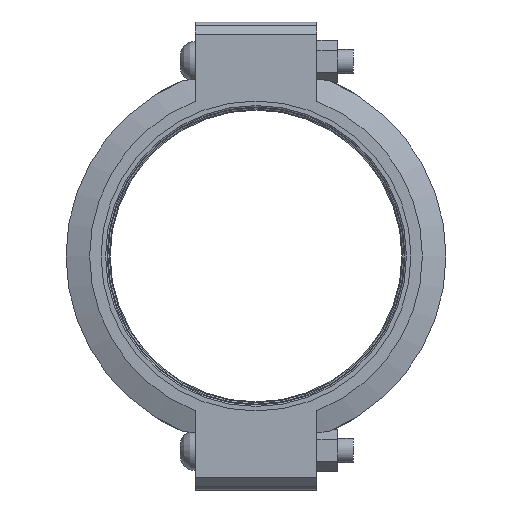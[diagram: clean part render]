
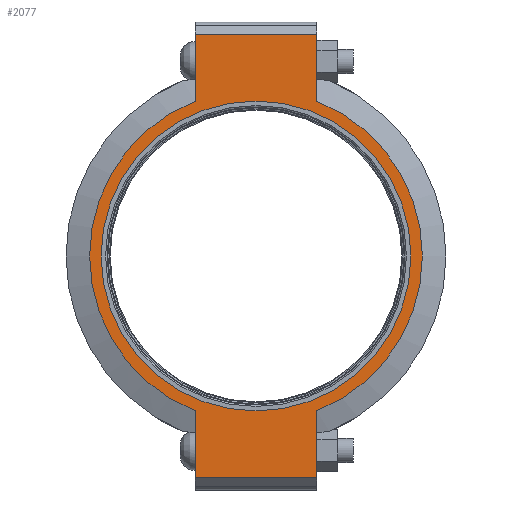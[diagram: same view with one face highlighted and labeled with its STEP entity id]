
A CAD part, left-side view. The second image highlights one B-rep face of the part: STEP entity #2077.
In plain terms, the highlighted planar face has unit normal (-1, 0, 0) as drawn and (0, 0, 1) by its records, which use the part's own axes.
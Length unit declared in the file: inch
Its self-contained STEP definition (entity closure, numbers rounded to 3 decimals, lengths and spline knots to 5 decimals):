
#186=LINE('',#3654,#279);
#197=LINE('',#3705,#290);
#203=LINE('',#3731,#296);
#205=LINE('',#3734,#298);
#206=LINE('',#3739,#299);
#207=LINE('',#3740,#300);
#279=VECTOR('',#2973,0.3937);
#290=VECTOR('',#3004,0.3937);
#296=VECTOR('',#3022,0.3937);
#298=VECTOR('',#3026,0.3937);
#299=VECTOR('',#3031,0.3937);
#300=VECTOR('',#3032,0.3937);
#363=FACE_BOUND('',#616,.T.);
#406=PLANE('',#2423);
#493=FACE_OUTER_BOUND('',#615,.T.);
#615=EDGE_LOOP('',(#1750,#1751,#1752,#1753,#1754,#1755,#1756,#1757));
#616=EDGE_LOOP('',(#1758));
#800=CIRCLE('',#2424,6.84375);
#801=CIRCLE('',#2425,6.84375);
#802=CIRCLE('',#2426,6.375);
#972=VERTEX_POINT('',#3651);
#973=VERTEX_POINT('',#3653);
#990=VERTEX_POINT('',#3700);
#991=VERTEX_POINT('',#3704);
#998=VERTEX_POINT('',#3726);
#999=VERTEX_POINT('',#3730);
#1000=VERTEX_POINT('',#3736);
#1001=VERTEX_POINT('',#3738);
#1002=VERTEX_POINT('',#3742);
#1227=EDGE_CURVE('',#973,#972,#186,.T.);
#1248=EDGE_CURVE('',#991,#990,#197,.T.);
#1259=EDGE_CURVE('',#999,#998,#203,.T.);
#1261=EDGE_CURVE('',#999,#972,#205,.T.);
#1262=EDGE_CURVE('',#998,#1000,#800,.T.);
#1263=EDGE_CURVE('',#1000,#1001,#206,.T.);
#1264=EDGE_CURVE('',#991,#1001,#207,.T.);
#1265=EDGE_CURVE('',#990,#973,#801,.T.);
#1266=EDGE_CURVE('',#1002,#1002,#802,.T.);
#1750=ORIENTED_EDGE('',*,*,#1261,.F.);
#1751=ORIENTED_EDGE('',*,*,#1259,.T.);
#1752=ORIENTED_EDGE('',*,*,#1262,.T.);
#1753=ORIENTED_EDGE('',*,*,#1263,.T.);
#1754=ORIENTED_EDGE('',*,*,#1264,.F.);
#1755=ORIENTED_EDGE('',*,*,#1248,.T.);
#1756=ORIENTED_EDGE('',*,*,#1265,.T.);
#1757=ORIENTED_EDGE('',*,*,#1227,.T.);
#1758=ORIENTED_EDGE('',*,*,#1266,.T.);
#2077=ADVANCED_FACE('',(#493,#363),#406,.T.);
#2423=AXIS2_PLACEMENT_3D('',#3735,#3027,#3028);
#2424=AXIS2_PLACEMENT_3D('',#3737,#3029,#3030);
#2425=AXIS2_PLACEMENT_3D('',#3741,#3033,#3034);
#2426=AXIS2_PLACEMENT_3D('',#3743,#3035,#3036);
#2973=DIRECTION('',(1.,0.,0.));
#3004=DIRECTION('',(1.,0.,0.));
#3022=DIRECTION('',(-1.,0.,0.));
#3026=DIRECTION('',(0.,-1.,0.));
#3027=DIRECTION('center_axis',(0.,0.,1.));
#3028=DIRECTION('ref_axis',(-1.,0.,0.));
#3029=DIRECTION('center_axis',(0.,0.,1.));
#3030=DIRECTION('ref_axis',(1.,0.,0.));
#3031=DIRECTION('',(-1.,0.,0.));
#3032=DIRECTION('',(0.,1.,0.));
#3033=DIRECTION('center_axis',(0.,0.,1.));
#3034=DIRECTION('ref_axis',(1.,0.,0.));
#3035=DIRECTION('center_axis',(0.,0.,-1.));
#3036=DIRECTION('ref_axis',(1.,0.,0.));
#3651=CARTESIAN_POINT('',(9.125,-2.5,1.315));
#3653=CARTESIAN_POINT('',(6.37079,-2.5,1.315));
#3654=CARTESIAN_POINT('',(-9.625,-2.5,1.315));
#3700=CARTESIAN_POINT('',(-6.37079,-2.5,1.315));
#3704=CARTESIAN_POINT('',(-9.125,-2.5,1.315));
#3705=CARTESIAN_POINT('',(-9.625,-2.5,1.315));
#3726=CARTESIAN_POINT('',(6.37079,2.5,1.315));
#3730=CARTESIAN_POINT('',(9.125,2.5,1.315));
#3731=CARTESIAN_POINT('',(9.625,2.5,1.315));
#3734=CARTESIAN_POINT('',(9.125,-1.25,1.315));
#3735=CARTESIAN_POINT('Origin',(0.,0.,
1.315));
#3736=CARTESIAN_POINT('',(-6.37079,2.5,1.315));
#3737=CARTESIAN_POINT('Origin',(0.,0.,1.315));
#3738=CARTESIAN_POINT('',(-9.125,2.5,1.315));
#3739=CARTESIAN_POINT('',(9.625,2.5,1.315));
#3740=CARTESIAN_POINT('',(-9.125,1.25,1.315));
#3741=CARTESIAN_POINT('Origin',(0.,0.,1.315));
#3742=CARTESIAN_POINT('',(-6.375,0.,1.315));
#3743=CARTESIAN_POINT('Origin',(0.,0.,1.315));
